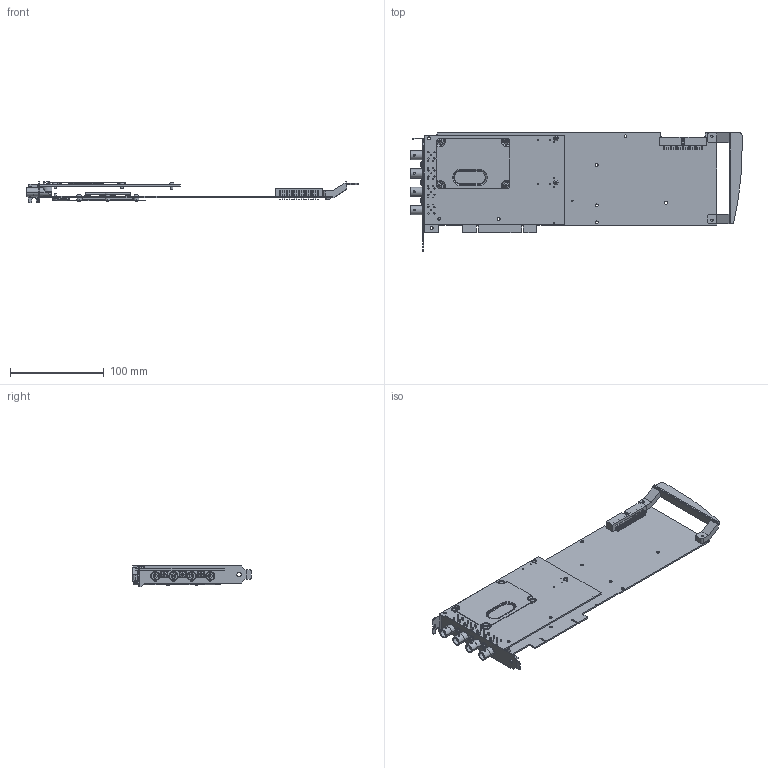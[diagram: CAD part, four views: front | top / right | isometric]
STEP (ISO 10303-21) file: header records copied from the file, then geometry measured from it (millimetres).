
FILE_DESCRIPTION((''),'2;1');
FILE_NAME('CU_PCI-540X','2010-01-18T',('jjorden'),(''),'PRO/ENGINEER BY PARAMETRIC TECHNOLOGY CORPORATION, 2006080','PRO/ENGINEER BY PARAMETRIC TECHNOLOGY CORPORATION, 2006080','');
FILE_SCHEMA(('CONFIG_CONTROL_DESIGN'));
Products named in the file (1): CU_PCI-540X
Bounding box: 354.53 x 126.37 x 22.58 mm (x, y, z)
Volume: 96382.6 mm3; surface area: 135078 mm2
Topology: 3 solids, 4 shells, 2573 faces, 6566 edges, 4082 vertices
Faces by surface type: plane 1494, cylinder 729, bspline 166, cone 80, sphere 58, torus 46
Entity records: 86983 total; most frequent: CARTESIAN_POINT 23850, ORIENTED_EDGE 13012, DIRECTION 12833, EDGE_CURVE 6506, VERTEX_POINT 4367, AXIS2_PLACEMENT_3D 4346, VECTOR 4141, LINE 4141
